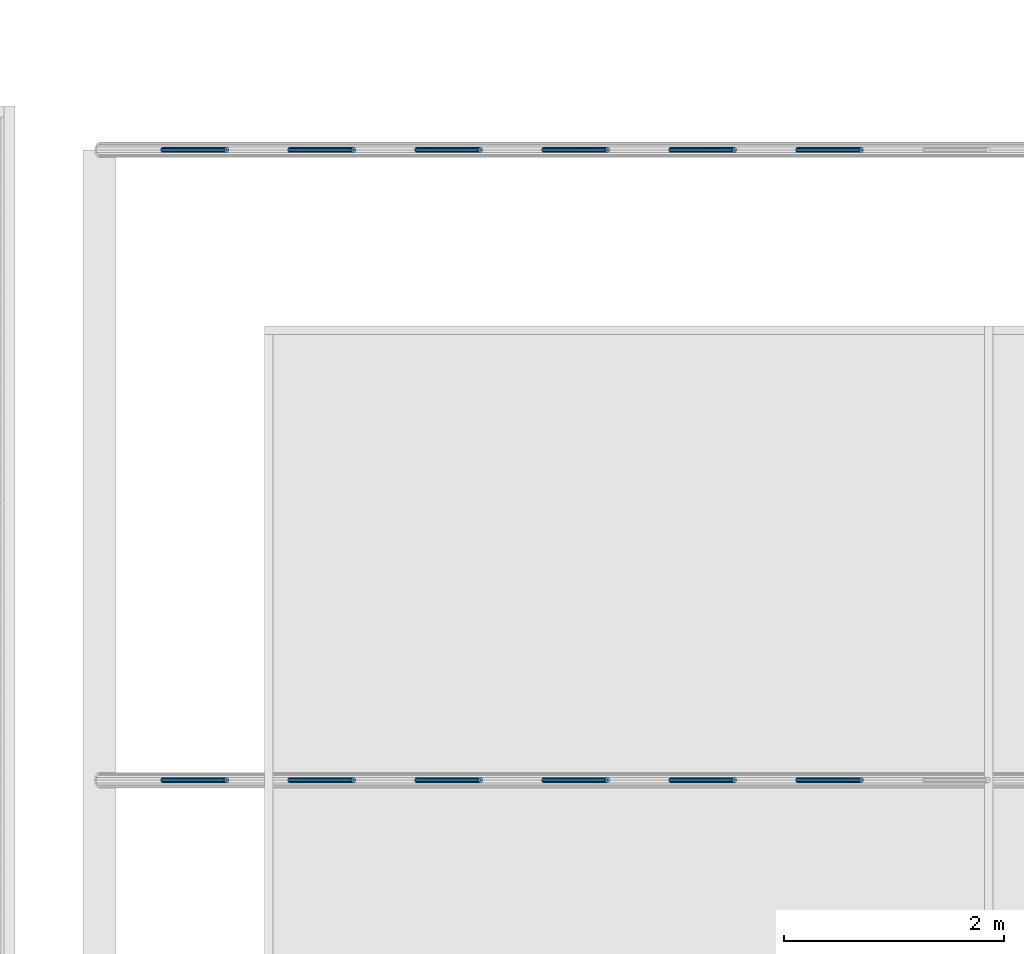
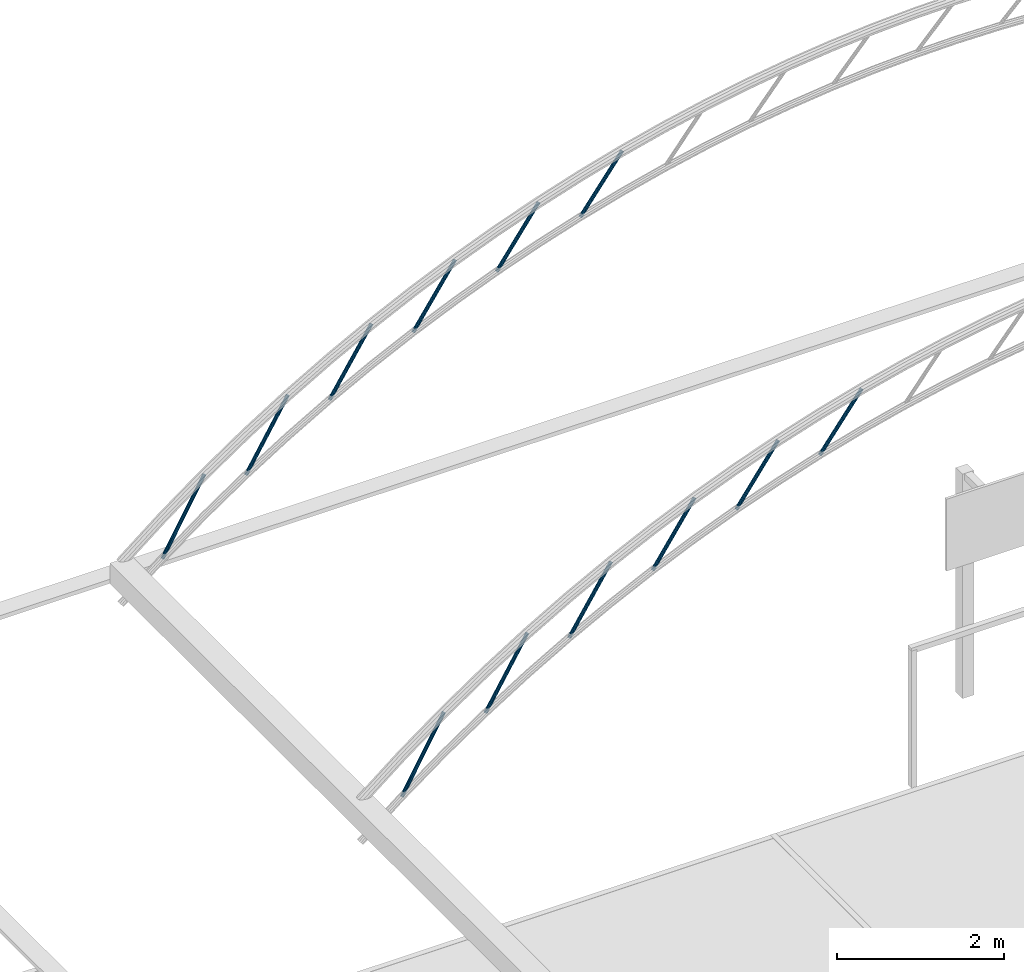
# One storey, part 15 of 90: 12 beams.
"""IFC2X3 building model written with IfcOpenShell, lengths in metres."""

from ifc_helpers import new_model, si_unit, origin, origin_with_axes, place, context, subcontext, project, spatial, faceted_brep, element, save


model = new_model("IFC2X3")

# Units and contexts
model_context = context("Model", 3, precision=1e-05, world=origin_with_axes())
body_context = subcontext(model_context, "Body", "Model", "MODEL_VIEW")
ifc_project = project(units=[si_unit("LENGTHUNIT", "METRE"), si_unit("AREAUNIT", "SQUARE_METRE"), si_unit("VOLUMEUNIT", "CUBIC_METRE"), si_unit("PLANEANGLEUNIT", "RADIAN")], contexts=[model_context])

# Site, building, storey
site_placement = place(None, origin_with_axes())
site = spatial("IfcSite", under=ifc_project, at=site_placement, Name="Predio Los Mangos - Morales, San Martín", CompositionType="ELEMENT")
building_placement = place(site_placement, origin())
building = spatial("IfcBuilding", under=site, at=building_placement, Name="Hogar de Refugio Temporal", CompositionType="ELEMENT")
storey_placement = place(building_placement, origin())
storey = spatial("IfcBuildingStorey", under=building, at=storey_placement, Name="NIVEL 1 (NPT +0.00)", CompositionType="ELEMENT", Elevation=0.0)

# Beams
beam_1_placement = place(storey_placement, origin())
element("IfcBeam", 1, at=beam_1_placement, inside=storey, Name="diag", ObjectType="Viga", context=body_context, shape_type="Brep", body=[
    faceted_brep([(4.0666, 121.2883, 5.8202), (4.6441, 121.2883, 6.8469), (4.655, 121.2917, 6.8408), (4.0775, 121.2917, 5.8141), (4.0586, 121.2792, 5.8247), (4.6361, 121.2792, 6.8514), (4.0557, 121.2667, 5.8263), (4.6332, 121.2667, 6.8531), (4.0586, 121.2542, 5.8247), (4.6361, 121.2542, 6.8514), (4.0666, 121.245, 5.8202), (4.6441, 121.245, 6.8469), (4.0775, 121.2417, 5.8141), (4.655, 121.2417, 6.8408), (4.0884, 121.245, 5.808), (4.6659, 121.245, 6.8347), (4.0964, 121.2542, 5.8035), (4.6739, 121.2542, 6.8302), (4.0993, 121.2667, 5.8018), (4.6768, 121.2667, 6.8286), (4.0964, 121.2792, 5.8035), (4.6739, 121.2792, 6.8302), (4.0884, 121.2883, 5.808), (4.6659, 121.2883, 6.8347), (4.0756, 121.2704, 5.8151), (4.0775, 121.271, 5.8141), (4.655, 121.271, 6.8408), (4.6531, 121.2704, 6.8419), (4.0743, 121.2688, 5.8159), (4.6518, 121.2688, 6.8426), (4.0738, 121.2667, 5.8162), (4.6513, 121.2667, 6.8429), (4.0743, 121.2645, 5.8159), (4.6518, 121.2645, 6.8426), (4.0756, 121.2629, 5.8151), (4.6531, 121.2629, 6.8419), (4.0775, 121.2624, 5.8141), (4.655, 121.2624, 6.8408), (4.0794, 121.2629, 5.813), (4.6569, 121.2629, 6.8398), (4.0807, 121.2645, 5.8123), (4.6582, 121.2645, 6.839), (4.0812, 121.2667, 5.812), (4.6587, 121.2667, 6.8387), (4.0807, 121.2688, 5.8123), (4.6582, 121.2688, 6.839), (4.0794, 121.2704, 5.813), (4.6569, 121.2704, 6.8398)], [[[0, 1, 2, 3]], [[4, 5, 1, 0]], [[6, 7, 5, 4]], [[8, 9, 7, 6]], [[10, 11, 9, 8]], [[12, 13, 11, 10]], [[14, 15, 13, 12]], [[16, 17, 15, 14]], [[18, 19, 17, 16]], [[20, 21, 19, 18]], [[22, 23, 21, 20]], [[3, 2, 23, 22]], [[24, 25, 26, 27]], [[28, 24, 27, 29]], [[30, 28, 29, 31]], [[32, 30, 31, 33]], [[34, 32, 33, 35]], [[36, 34, 35, 37]], [[38, 36, 37, 39]], [[40, 38, 39, 41]], [[42, 40, 41, 43]], [[44, 42, 43, 45]], [[46, 44, 45, 47]], [[25, 46, 47, 26]], [[16, 14, 38, 40]], [[0, 3, 25, 24]], [[9, 11, 35, 33]], [[19, 21, 45, 43]], [[12, 10, 34, 36]], [[22, 20, 44, 46]], [[5, 7, 31, 29]], [[15, 17, 41, 39]], [[2, 1, 27, 26]], [[8, 6, 30, 32]], [[18, 16, 40, 42]], [[11, 13, 37, 35]], [[21, 23, 47, 45]], [[4, 0, 24, 28]], [[14, 12, 36, 38]], [[3, 22, 46, 25]], [[7, 9, 33, 31]], [[17, 19, 43, 41]], [[23, 2, 26, 47]], [[10, 8, 32, 34]], [[20, 18, 42, 44]], [[1, 5, 29, 27]], [[13, 15, 39, 37]], [[6, 4, 28, 30]]]),
])
beam_2_placement = place(storey_placement, origin())
element("IfcBeam", 2, at=beam_2_placement, inside=storey, Name="diag", ObjectType="Viga", context=body_context, shape_type="Brep", body=[
    faceted_brep([(5.2218, 121.2883, 6.6398), (5.7993, 121.2883, 7.6007), (5.81, 121.2917, 7.5943), (5.2325, 121.2917, 6.6333), (5.2139, 121.2792, 6.6445), (5.7914, 121.2792, 7.6055), (5.2111, 121.2667, 6.6462), (5.7886, 121.2667, 7.6072), (5.2139, 121.2542, 6.6445), (5.7914, 121.2542, 7.6055), (5.2218, 121.245, 6.6398), (5.7993, 121.245, 7.6007), (5.2325, 121.2417, 6.6333), (5.81, 121.2417, 7.5943), (5.2432, 121.245, 6.6269), (5.8207, 121.245, 7.5879), (5.2511, 121.2542, 6.6222), (5.8286, 121.2542, 7.5832), (5.2539, 121.2667, 6.6205), (5.8314, 121.2667, 7.5814), (5.2511, 121.2792, 6.6222), (5.8286, 121.2792, 7.5832), (5.2432, 121.2883, 6.6269), (5.8207, 121.2883, 7.5879), (5.2307, 121.2704, 6.6345), (5.2325, 121.271, 6.6333), (5.81, 121.271, 7.5943), (5.8082, 121.2704, 7.5954), (5.2293, 121.2688, 6.6353), (5.8068, 121.2688, 7.5962), (5.2288, 121.2667, 6.6356), (5.8063, 121.2667, 7.5965), (5.2293, 121.2645, 6.6353), (5.8068, 121.2645, 7.5962), (5.2307, 121.2629, 6.6345), (5.8082, 121.2629, 7.5954), (5.2325, 121.2624, 6.6333), (5.81, 121.2624, 7.5943), (5.2343, 121.2629, 6.6322), (5.8118, 121.2629, 7.5932), (5.2357, 121.2645, 6.6314), (5.8132, 121.2645, 7.5924), (5.2362, 121.2667, 6.6311), (5.8137, 121.2667, 7.5921), (5.2357, 121.2688, 6.6314), (5.8132, 121.2688, 7.5924), (5.2343, 121.2704, 6.6322), (5.8118, 121.2704, 7.5932)], [[[0, 1, 2, 3]], [[4, 5, 1, 0]], [[6, 7, 5, 4]], [[8, 9, 7, 6]], [[10, 11, 9, 8]], [[12, 13, 11, 10]], [[14, 15, 13, 12]], [[16, 17, 15, 14]], [[18, 19, 17, 16]], [[20, 21, 19, 18]], [[22, 23, 21, 20]], [[3, 2, 23, 22]], [[24, 25, 26, 27]], [[28, 24, 27, 29]], [[30, 28, 29, 31]], [[32, 30, 31, 33]], [[34, 32, 33, 35]], [[36, 34, 35, 37]], [[38, 36, 37, 39]], [[40, 38, 39, 41]], [[42, 40, 41, 43]], [[44, 42, 43, 45]], [[46, 44, 45, 47]], [[25, 46, 47, 26]], [[16, 14, 38, 40]], [[0, 3, 25, 24]], [[9, 11, 35, 33]], [[19, 21, 45, 43]], [[12, 10, 34, 36]], [[22, 20, 44, 46]], [[5, 7, 31, 29]], [[15, 17, 41, 39]], [[2, 1, 27, 26]], [[8, 6, 30, 32]], [[18, 16, 40, 42]], [[11, 13, 37, 35]], [[21, 23, 47, 45]], [[4, 0, 24, 28]], [[14, 12, 36, 38]], [[3, 22, 46, 25]], [[7, 9, 33, 31]], [[17, 19, 43, 41]], [[23, 2, 26, 47]], [[10, 8, 32, 34]], [[20, 18, 42, 44]], [[1, 5, 29, 27]], [[13, 15, 39, 37]], [[6, 4, 28, 30]]]),
])
beam_3_placement = place(storey_placement, origin())
element("IfcBeam", 3, at=beam_3_placement, inside=storey, Name="diag", ObjectType="Viga", context=body_context, shape_type="Brep", body=[
    faceted_brep([(6.377, 121.2883, 7.3326), (6.9545, 121.2883, 8.2366), (6.965, 121.2917, 8.2298), (6.3875, 121.2917, 7.3259), (6.3693, 121.2792, 7.3375), (6.9468, 121.2792, 8.2415), (6.3664, 121.2667, 7.3393), (6.9439, 121.2667, 8.2433), (6.3693, 121.2542, 7.3375), (6.9468, 121.2542, 8.2415), (6.377, 121.245, 7.3326), (6.9545, 121.245, 8.2366), (6.3875, 121.2417, 7.3259), (6.965, 121.2417, 8.2298), (6.398, 121.245, 7.3191), (6.9755, 121.245, 8.2231), (6.4057, 121.2542, 7.3142), (6.9832, 121.2542, 8.2182), (6.4086, 121.2667, 7.3124), (6.9861, 121.2667, 8.2164), (6.4057, 121.2792, 7.3142), (6.9832, 121.2792, 8.2182), (6.398, 121.2883, 7.3191), (6.9755, 121.2883, 8.2231), (6.3857, 121.2704, 7.327), (6.3875, 121.271, 7.3259), (6.965, 121.271, 8.2298), (6.9632, 121.2704, 8.231), (6.3844, 121.2688, 7.3279), (6.9619, 121.2688, 8.2318), (6.3839, 121.2667, 7.3282), (6.9614, 121.2667, 8.2321), (6.3844, 121.2645, 7.3279), (6.9619, 121.2645, 8.2318), (6.3857, 121.2629, 7.327), (6.9632, 121.2629, 8.231), (6.3875, 121.2624, 7.3259), (6.965, 121.2624, 8.2298), (6.3893, 121.2629, 7.3247), (6.9668, 121.2629, 8.2287), (6.3906, 121.2645, 7.3239), (6.9681, 121.2645, 8.2278), (6.3911, 121.2667, 7.3235), (6.9686, 121.2667, 8.2275), (6.3906, 121.2688, 7.3239), (6.9681, 121.2688, 8.2278), (6.3893, 121.2704, 7.3247), (6.9668, 121.2704, 8.2287)], [[[0, 1, 2, 3]], [[4, 5, 1, 0]], [[6, 7, 5, 4]], [[8, 9, 7, 6]], [[10, 11, 9, 8]], [[12, 13, 11, 10]], [[14, 15, 13, 12]], [[16, 17, 15, 14]], [[18, 19, 17, 16]], [[20, 21, 19, 18]], [[22, 23, 21, 20]], [[3, 2, 23, 22]], [[24, 25, 26, 27]], [[28, 24, 27, 29]], [[30, 28, 29, 31]], [[32, 30, 31, 33]], [[34, 32, 33, 35]], [[36, 34, 35, 37]], [[38, 36, 37, 39]], [[40, 38, 39, 41]], [[42, 40, 41, 43]], [[44, 42, 43, 45]], [[46, 44, 45, 47]], [[25, 46, 47, 26]], [[16, 14, 38, 40]], [[0, 3, 25, 24]], [[9, 11, 35, 33]], [[19, 21, 45, 43]], [[12, 10, 34, 36]], [[22, 20, 44, 46]], [[5, 7, 31, 29]], [[15, 17, 41, 39]], [[2, 1, 27, 26]], [[8, 6, 30, 32]], [[18, 16, 40, 42]], [[11, 13, 37, 35]], [[21, 23, 47, 45]], [[4, 0, 24, 28]], [[14, 12, 36, 38]], [[3, 22, 46, 25]], [[7, 9, 33, 31]], [[17, 19, 43, 41]], [[23, 2, 26, 47]], [[10, 8, 32, 34]], [[20, 18, 42, 44]], [[1, 5, 29, 27]], [[13, 15, 39, 37]], [[6, 4, 28, 30]]]),
])
beam_4_placement = place(storey_placement, origin())
element("IfcBeam", 4, at=beam_4_placement, inside=storey, Name="diag", ObjectType="Viga", context=body_context, shape_type="Brep", body=[
    faceted_brep([(7.5321, 121.2883, 7.9148), (8.1096, 121.2883, 8.7679), (8.12, 121.2917, 8.7609), (7.5425, 121.2917, 7.9077), (7.5246, 121.2792, 7.9199), (8.1021, 121.2792, 8.7731), (7.5218, 121.2667, 7.9218), (8.0993, 121.2667, 8.7749), (7.5246, 121.2542, 7.9199), (8.1021, 121.2542, 8.7731), (7.5321, 121.245, 7.9148), (8.1096, 121.245, 8.7679), (7.5425, 121.2417, 7.9077), (8.12, 121.2417, 8.7609), (7.5529, 121.245, 7.9007), (8.1304, 121.245, 8.7539), (7.5604, 121.2542, 7.8956), (8.1379, 121.2542, 8.7488), (7.5632, 121.2667, 7.8937), (8.1407, 121.2667, 8.7469), (7.5604, 121.2792, 7.8956), (8.1379, 121.2792, 8.7488), (7.5529, 121.2883, 7.9007), (8.1304, 121.2883, 8.7539), (7.5407, 121.2704, 7.9089), (7.5425, 121.271, 7.9077), (8.12, 121.271, 8.7609), (8.1182, 121.2704, 8.7621), (7.5394, 121.2688, 7.9098), (8.1169, 121.2688, 8.763), (7.5389, 121.2667, 7.9102), (8.1164, 121.2667, 8.7633), (7.5394, 121.2645, 7.9098), (8.1169, 121.2645, 8.763), (7.5407, 121.2629, 7.9089), (8.1182, 121.2629, 8.7621), (7.5425, 121.2624, 7.9077), (8.12, 121.2624, 8.7609), (7.5443, 121.2629, 7.9065), (8.1218, 121.2629, 8.7597), (7.5456, 121.2645, 7.9057), (8.1231, 121.2645, 8.7588), (7.5461, 121.2667, 7.9053), (8.1236, 121.2667, 8.7585), (7.5456, 121.2688, 7.9057), (8.1231, 121.2688, 8.7588), (7.5443, 121.2704, 7.9065), (8.1218, 121.2704, 8.7597)], [[[0, 1, 2, 3]], [[4, 5, 1, 0]], [[6, 7, 5, 4]], [[8, 9, 7, 6]], [[10, 11, 9, 8]], [[12, 13, 11, 10]], [[14, 15, 13, 12]], [[16, 17, 15, 14]], [[18, 19, 17, 16]], [[20, 21, 19, 18]], [[22, 23, 21, 20]], [[3, 2, 23, 22]], [[24, 25, 26, 27]], [[28, 24, 27, 29]], [[30, 28, 29, 31]], [[32, 30, 31, 33]], [[34, 32, 33, 35]], [[36, 34, 35, 37]], [[38, 36, 37, 39]], [[40, 38, 39, 41]], [[42, 40, 41, 43]], [[44, 42, 43, 45]], [[46, 44, 45, 47]], [[25, 46, 47, 26]], [[16, 14, 38, 40]], [[0, 3, 25, 24]], [[9, 11, 35, 33]], [[19, 21, 45, 43]], [[12, 10, 34, 36]], [[22, 20, 44, 46]], [[5, 7, 31, 29]], [[15, 17, 41, 39]], [[2, 1, 27, 26]], [[8, 6, 30, 32]], [[18, 16, 40, 42]], [[11, 13, 37, 35]], [[21, 23, 47, 45]], [[4, 0, 24, 28]], [[14, 12, 36, 38]], [[3, 22, 46, 25]], [[7, 9, 33, 31]], [[17, 19, 43, 41]], [[23, 2, 26, 47]], [[10, 8, 32, 34]], [[20, 18, 42, 44]], [[1, 5, 29, 27]], [[13, 15, 39, 37]], [[6, 4, 28, 30]]]),
])
beam_5_placement = place(storey_placement, origin())
element("IfcBeam", 5, at=beam_5_placement, inside=storey, Name="diag", ObjectType="Viga", context=body_context, shape_type="Brep", body=[
    faceted_brep([(8.6873, 121.2883, 8.3978), (9.2648, 121.2883, 9.2047), (9.275, 121.2917, 9.1974), (8.6975, 121.2917, 8.3905), (8.6799, 121.2792, 8.4031), (9.2574, 121.2792, 9.21), (8.6772, 121.2667, 8.405), (9.2547, 121.2667, 9.2119), (8.6799, 121.2542, 8.4031), (9.2574, 121.2542, 9.21), (8.6873, 121.245, 8.3978), (9.2648, 121.245, 9.2047), (8.6975, 121.2417, 8.3905), (9.275, 121.2417, 9.1974), (8.7077, 121.245, 8.3832), (9.2852, 121.245, 9.1901), (8.7151, 121.2542, 8.3779), (9.2926, 121.2542, 9.1848), (8.7178, 121.2667, 8.3759), (9.2953, 121.2667, 9.1828), (8.7151, 121.2792, 8.3779), (9.2926, 121.2792, 9.1848), (8.7077, 121.2883, 8.3832), (9.2852, 121.2883, 9.1901), (8.6958, 121.2704, 8.3917), (8.6975, 121.271, 8.3905), (9.275, 121.271, 9.1974), (9.2733, 121.2704, 9.1986), (8.6945, 121.2688, 8.3927), (9.272, 121.2688, 9.1996), (8.694, 121.2667, 8.393), (9.2715, 121.2667, 9.1999), (8.6945, 121.2645, 8.3927), (9.272, 121.2645, 9.1996), (8.6958, 121.2629, 8.3917), (9.2733, 121.2629, 9.1986), (8.6975, 121.2624, 8.3905), (9.275, 121.2624, 9.1974), (8.6992, 121.2629, 8.3892), (9.2767, 121.2629, 9.1961), (8.7005, 121.2645, 8.3883), (9.278, 121.2645, 9.1952), (8.701, 121.2667, 8.388), (9.2785, 121.2667, 9.1949), (8.7005, 121.2688, 8.3883), (9.278, 121.2688, 9.1952), (8.6992, 121.2704, 8.3892), (9.2767, 121.2704, 9.1961)], [[[0, 1, 2, 3]], [[4, 5, 1, 0]], [[6, 7, 5, 4]], [[8, 9, 7, 6]], [[10, 11, 9, 8]], [[12, 13, 11, 10]], [[14, 15, 13, 12]], [[16, 17, 15, 14]], [[18, 19, 17, 16]], [[20, 21, 19, 18]], [[22, 23, 21, 20]], [[3, 2, 23, 22]], [[24, 25, 26, 27]], [[28, 24, 27, 29]], [[30, 28, 29, 31]], [[32, 30, 31, 33]], [[34, 32, 33, 35]], [[36, 34, 35, 37]], [[38, 36, 37, 39]], [[40, 38, 39, 41]], [[42, 40, 41, 43]], [[44, 42, 43, 45]], [[46, 44, 45, 47]], [[25, 46, 47, 26]], [[16, 14, 38, 40]], [[0, 3, 25, 24]], [[9, 11, 35, 33]], [[19, 21, 45, 43]], [[12, 10, 34, 36]], [[22, 20, 44, 46]], [[5, 7, 31, 29]], [[15, 17, 41, 39]], [[2, 1, 27, 26]], [[8, 6, 30, 32]], [[18, 16, 40, 42]], [[11, 13, 37, 35]], [[21, 23, 47, 45]], [[4, 0, 24, 28]], [[14, 12, 36, 38]], [[3, 22, 46, 25]], [[7, 9, 33, 31]], [[17, 19, 43, 41]], [[23, 2, 26, 47]], [[10, 8, 32, 34]], [[20, 18, 42, 44]], [[1, 5, 29, 27]], [[13, 15, 39, 37]], [[6, 4, 28, 30]]]),
])
beam_6_placement = place(storey_placement, origin())
element("IfcBeam", 6, at=beam_6_placement, inside=storey, Name="diag", ObjectType="Viga", context=body_context, shape_type="Brep", body=[
    faceted_brep([(9.8425, 121.2883, 8.79), (10.42, 121.2883, 9.5539), (10.43, 121.2917, 9.5463), (9.8525, 121.2917, 8.7824), (9.8352, 121.2792, 8.7955), (10.4127, 121.2792, 9.5594), (9.8326, 121.2667, 8.7975), (10.4101, 121.2667, 9.5614), (9.8352, 121.2542, 8.7955), (10.4127, 121.2542, 9.5594), (9.8425, 121.245, 8.79), (10.42, 121.245, 9.5539), (9.8525, 121.2417, 8.7824), (10.43, 121.2417, 9.5463), (9.8625, 121.245, 8.7749), (10.44, 121.245, 9.5388), (9.8698, 121.2542, 8.7694), (10.4473, 121.2542, 9.5333), (9.8724, 121.2667, 8.7674), (10.4499, 121.2667, 9.5313), (9.8698, 121.2792, 8.7694), (10.4473, 121.2792, 9.5333), (9.8625, 121.2883, 8.7749), (10.44, 121.2883, 9.5388), (9.8508, 121.2704, 8.7837), (9.8525, 121.271, 8.7824), (10.43, 121.271, 9.5463), (10.4283, 121.2704, 9.5476), (9.8495, 121.2688, 8.7847), (10.427, 121.2688, 9.5486), (9.8491, 121.2667, 8.785), (10.4266, 121.2667, 9.5489), (9.8495, 121.2645, 8.7847), (10.427, 121.2645, 9.5486), (9.8508, 121.2629, 8.7837), (10.4283, 121.2629, 9.5476), (9.8525, 121.2624, 8.7824), (10.43, 121.2624, 9.5463), (9.8542, 121.2629, 8.7812), (10.4317, 121.2629, 9.5451), (9.8555, 121.2645, 8.7802), (10.433, 121.2645, 9.5441), (9.8559, 121.2667, 8.7799), (10.4334, 121.2667, 9.5438), (9.8555, 121.2688, 8.7802), (10.433, 121.2688, 9.5441), (9.8542, 121.2704, 8.7812), (10.4317, 121.2704, 9.5451)], [[[0, 1, 2, 3]], [[4, 5, 1, 0]], [[6, 7, 5, 4]], [[8, 9, 7, 6]], [[10, 11, 9, 8]], [[12, 13, 11, 10]], [[14, 15, 13, 12]], [[16, 17, 15, 14]], [[18, 19, 17, 16]], [[20, 21, 19, 18]], [[22, 23, 21, 20]], [[3, 2, 23, 22]], [[24, 25, 26, 27]], [[28, 24, 27, 29]], [[30, 28, 29, 31]], [[32, 30, 31, 33]], [[34, 32, 33, 35]], [[36, 34, 35, 37]], [[38, 36, 37, 39]], [[40, 38, 39, 41]], [[42, 40, 41, 43]], [[44, 42, 43, 45]], [[46, 44, 45, 47]], [[25, 46, 47, 26]], [[23, 2, 26, 47]], [[10, 8, 32, 34]], [[20, 18, 42, 44]], [[1, 5, 29, 27]], [[13, 15, 39, 37]], [[6, 4, 28, 30]], [[16, 14, 38, 40]], [[0, 3, 25, 24]], [[9, 11, 35, 33]], [[19, 21, 45, 43]], [[12, 10, 34, 36]], [[22, 20, 44, 46]], [[5, 7, 31, 29]], [[15, 17, 41, 39]], [[2, 1, 27, 26]], [[8, 6, 30, 32]], [[18, 16, 40, 42]], [[11, 13, 37, 35]], [[21, 23, 47, 45]], [[4, 0, 24, 28]], [[14, 12, 36, 38]], [[3, 22, 46, 25]], [[7, 9, 33, 31]], [[17, 19, 43, 41]]]),
])
beam_7_placement = place(storey_placement, origin())
element("IfcBeam", 7, at=beam_7_placement, inside=storey, Name="diag", ObjectType="Viga", context=body_context, shape_type="Brep", body=[
    faceted_brep([(4.0666, 127.0217, 5.8202), (4.6441, 127.0217, 6.8469), (4.655, 127.025, 6.8408), (4.0775, 127.025, 5.8141), (4.0586, 127.0125, 5.8247), (4.6361, 127.0125, 6.8514), (4.0557, 127.0, 5.8263), (4.6332, 127.0, 6.8531), (4.0586, 126.9875, 5.8247), (4.6361, 126.9875, 6.8514), (4.0666, 126.9783, 5.8202), (4.6441, 126.9783, 6.8469), (4.0775, 126.975, 5.8141), (4.655, 126.975, 6.8408), (4.0884, 126.9783, 5.808), (4.6659, 126.9783, 6.8347), (4.0964, 126.9875, 5.8035), (4.6739, 126.9875, 6.8302), (4.0993, 127.0, 5.8018), (4.6768, 127.0, 6.8286), (4.0964, 127.0125, 5.8035), (4.6739, 127.0125, 6.8302), (4.0884, 127.0217, 5.808), (4.6659, 127.0217, 6.8347), (4.0756, 127.0037, 5.8151), (4.0775, 127.0043, 5.8141), (4.655, 127.0043, 6.8408), (4.6531, 127.0037, 6.8419), (4.0743, 127.0021, 5.8159), (4.6518, 127.0021, 6.8426), (4.0738, 127.0, 5.8162), (4.6513, 127.0, 6.8429), (4.0743, 126.9979, 5.8159), (4.6518, 126.9979, 6.8426), (4.0756, 126.9963, 5.8151), (4.6531, 126.9963, 6.8419), (4.0775, 126.9957, 5.8141), (4.655, 126.9957, 6.8408), (4.0794, 126.9963, 5.813), (4.6569, 126.9963, 6.8398), (4.0807, 126.9979, 5.8123), (4.6582, 126.9979, 6.839), (4.0812, 127.0, 5.812), (4.6587, 127.0, 6.8387), (4.0807, 127.0021, 5.8123), (4.6582, 127.0021, 6.839), (4.0794, 127.0037, 5.813), (4.6569, 127.0037, 6.8398)], [[[0, 1, 2, 3]], [[4, 5, 1, 0]], [[6, 7, 5, 4]], [[8, 9, 7, 6]], [[10, 11, 9, 8]], [[12, 13, 11, 10]], [[14, 15, 13, 12]], [[16, 17, 15, 14]], [[18, 19, 17, 16]], [[20, 21, 19, 18]], [[22, 23, 21, 20]], [[3, 2, 23, 22]], [[24, 25, 26, 27]], [[28, 24, 27, 29]], [[30, 28, 29, 31]], [[32, 30, 31, 33]], [[34, 32, 33, 35]], [[36, 34, 35, 37]], [[38, 36, 37, 39]], [[40, 38, 39, 41]], [[42, 40, 41, 43]], [[44, 42, 43, 45]], [[46, 44, 45, 47]], [[25, 46, 47, 26]], [[1, 5, 29, 27]], [[13, 15, 39, 37]], [[6, 4, 28, 30]], [[16, 14, 38, 40]], [[0, 3, 25, 24]], [[9, 11, 35, 33]], [[19, 21, 45, 43]], [[12, 10, 34, 36]], [[22, 20, 44, 46]], [[5, 7, 31, 29]], [[15, 17, 41, 39]], [[2, 1, 27, 26]], [[8, 6, 30, 32]], [[18, 16, 40, 42]], [[11, 13, 37, 35]], [[21, 23, 47, 45]], [[4, 0, 24, 28]], [[14, 12, 36, 38]], [[3, 22, 46, 25]], [[7, 9, 33, 31]], [[17, 19, 43, 41]], [[23, 2, 26, 47]], [[10, 8, 32, 34]], [[20, 18, 42, 44]]]),
])
beam_8_placement = place(storey_placement, origin())
element("IfcBeam", 8, at=beam_8_placement, inside=storey, Name="diag", ObjectType="Viga", context=body_context, shape_type="Brep", body=[
    faceted_brep([(5.2218, 127.0217, 6.6398), (5.7993, 127.0217, 7.6007), (5.81, 127.025, 7.5943), (5.2325, 127.025, 6.6333), (5.2139, 127.0125, 6.6445), (5.7914, 127.0125, 7.6055), (5.2111, 127.0, 6.6462), (5.7886, 127.0, 7.6072), (5.2139, 126.9875, 6.6445), (5.7914, 126.9875, 7.6055), (5.2218, 126.9783, 6.6398), (5.7993, 126.9783, 7.6007), (5.2325, 126.975, 6.6333), (5.81, 126.975, 7.5943), (5.2432, 126.9783, 6.6269), (5.8207, 126.9783, 7.5879), (5.2511, 126.9875, 6.6222), (5.8286, 126.9875, 7.5832), (5.2539, 127.0, 6.6205), (5.8314, 127.0, 7.5814), (5.2511, 127.0125, 6.6222), (5.8286, 127.0125, 7.5832), (5.2432, 127.0217, 6.6269), (5.8207, 127.0217, 7.5879), (5.2307, 127.0037, 6.6345), (5.2325, 127.0043, 6.6333), (5.81, 127.0043, 7.5943), (5.8082, 127.0037, 7.5954), (5.2293, 127.0021, 6.6353), (5.8068, 127.0021, 7.5962), (5.2288, 127.0, 6.6356), (5.8063, 127.0, 7.5965), (5.2293, 126.9979, 6.6353), (5.8068, 126.9979, 7.5962), (5.2307, 126.9963, 6.6345), (5.8082, 126.9963, 7.5954), (5.2325, 126.9957, 6.6333), (5.81, 126.9957, 7.5943), (5.2343, 126.9963, 6.6322), (5.8118, 126.9963, 7.5932), (5.2357, 126.9979, 6.6314), (5.8132, 126.9979, 7.5924), (5.2362, 127.0, 6.6311), (5.8137, 127.0, 7.5921), (5.2357, 127.0021, 6.6314), (5.8132, 127.0021, 7.5924), (5.2343, 127.0037, 6.6322), (5.8118, 127.0037, 7.5932)], [[[0, 1, 2, 3]], [[4, 5, 1, 0]], [[6, 7, 5, 4]], [[8, 9, 7, 6]], [[10, 11, 9, 8]], [[12, 13, 11, 10]], [[14, 15, 13, 12]], [[16, 17, 15, 14]], [[18, 19, 17, 16]], [[20, 21, 19, 18]], [[22, 23, 21, 20]], [[3, 2, 23, 22]], [[24, 25, 26, 27]], [[28, 24, 27, 29]], [[30, 28, 29, 31]], [[32, 30, 31, 33]], [[34, 32, 33, 35]], [[36, 34, 35, 37]], [[38, 36, 37, 39]], [[40, 38, 39, 41]], [[42, 40, 41, 43]], [[44, 42, 43, 45]], [[46, 44, 45, 47]], [[25, 46, 47, 26]], [[1, 5, 29, 27]], [[13, 15, 39, 37]], [[6, 4, 28, 30]], [[16, 14, 38, 40]], [[0, 3, 25, 24]], [[9, 11, 35, 33]], [[19, 21, 45, 43]], [[12, 10, 34, 36]], [[22, 20, 44, 46]], [[5, 7, 31, 29]], [[15, 17, 41, 39]], [[2, 1, 27, 26]], [[8, 6, 30, 32]], [[18, 16, 40, 42]], [[11, 13, 37, 35]], [[21, 23, 47, 45]], [[4, 0, 24, 28]], [[14, 12, 36, 38]], [[3, 22, 46, 25]], [[7, 9, 33, 31]], [[17, 19, 43, 41]], [[23, 2, 26, 47]], [[10, 8, 32, 34]], [[20, 18, 42, 44]]]),
])
beam_9_placement = place(storey_placement, origin())
element("IfcBeam", 9, at=beam_9_placement, inside=storey, Name="diag", ObjectType="Viga", context=body_context, shape_type="Brep", body=[
    faceted_brep([(6.377, 127.0217, 7.3326), (6.9545, 127.0217, 8.2366), (6.965, 127.025, 8.2298), (6.3875, 127.025, 7.3259), (6.3693, 127.0125, 7.3375), (6.9468, 127.0125, 8.2415), (6.3664, 127.0, 7.3393), (6.9439, 127.0, 8.2433), (6.3693, 126.9875, 7.3375), (6.9468, 126.9875, 8.2415), (6.377, 126.9783, 7.3326), (6.9545, 126.9783, 8.2366), (6.3875, 126.975, 7.3259), (6.965, 126.975, 8.2298), (6.398, 126.9783, 7.3191), (6.9755, 126.9783, 8.2231), (6.4057, 126.9875, 7.3142), (6.9832, 126.9875, 8.2182), (6.4086, 127.0, 7.3124), (6.9861, 127.0, 8.2164), (6.4057, 127.0125, 7.3142), (6.9832, 127.0125, 8.2182), (6.398, 127.0217, 7.3191), (6.9755, 127.0217, 8.2231), (6.3857, 127.0037, 7.327), (6.3875, 127.0043, 7.3259), (6.965, 127.0043, 8.2298), (6.9632, 127.0037, 8.231), (6.3844, 127.0021, 7.3279), (6.9619, 127.0021, 8.2318), (6.3839, 127.0, 7.3282), (6.9614, 127.0, 8.2321), (6.3844, 126.9979, 7.3279), (6.9619, 126.9979, 8.2318), (6.3857, 126.9963, 7.327), (6.9632, 126.9963, 8.231), (6.3875, 126.9957, 7.3259), (6.965, 126.9957, 8.2298), (6.3893, 126.9963, 7.3247), (6.9668, 126.9963, 8.2287), (6.3906, 126.9979, 7.3239), (6.9681, 126.9979, 8.2278), (6.3911, 127.0, 7.3235), (6.9686, 127.0, 8.2275), (6.3906, 127.0021, 7.3239), (6.9681, 127.0021, 8.2278), (6.3893, 127.0037, 7.3247), (6.9668, 127.0037, 8.2287)], [[[0, 1, 2, 3]], [[4, 5, 1, 0]], [[6, 7, 5, 4]], [[8, 9, 7, 6]], [[10, 11, 9, 8]], [[12, 13, 11, 10]], [[14, 15, 13, 12]], [[16, 17, 15, 14]], [[18, 19, 17, 16]], [[20, 21, 19, 18]], [[22, 23, 21, 20]], [[3, 2, 23, 22]], [[24, 25, 26, 27]], [[28, 24, 27, 29]], [[30, 28, 29, 31]], [[32, 30, 31, 33]], [[34, 32, 33, 35]], [[36, 34, 35, 37]], [[38, 36, 37, 39]], [[40, 38, 39, 41]], [[42, 40, 41, 43]], [[44, 42, 43, 45]], [[46, 44, 45, 47]], [[25, 46, 47, 26]], [[1, 5, 29, 27]], [[13, 15, 39, 37]], [[6, 4, 28, 30]], [[16, 14, 38, 40]], [[0, 3, 25, 24]], [[9, 11, 35, 33]], [[19, 21, 45, 43]], [[12, 10, 34, 36]], [[22, 20, 44, 46]], [[5, 7, 31, 29]], [[15, 17, 41, 39]], [[2, 1, 27, 26]], [[8, 6, 30, 32]], [[18, 16, 40, 42]], [[11, 13, 37, 35]], [[21, 23, 47, 45]], [[4, 0, 24, 28]], [[14, 12, 36, 38]], [[3, 22, 46, 25]], [[7, 9, 33, 31]], [[17, 19, 43, 41]], [[23, 2, 26, 47]], [[10, 8, 32, 34]], [[20, 18, 42, 44]]]),
])
beam_10_placement = place(storey_placement, origin())
element("IfcBeam", 10, at=beam_10_placement, inside=storey, Name="diag", ObjectType="Viga", context=body_context, shape_type="Brep", body=[
    faceted_brep([(7.5321, 127.0217, 7.9148), (8.1096, 127.0217, 8.7679), (8.12, 127.025, 8.7609), (7.5425, 127.025, 7.9077), (7.5246, 127.0125, 7.9199), (8.1021, 127.0125, 8.7731), (7.5218, 127.0, 7.9218), (8.0993, 127.0, 8.7749), (7.5246, 126.9875, 7.9199), (8.1021, 126.9875, 8.7731), (7.5321, 126.9783, 7.9148), (8.1096, 126.9783, 8.7679), (7.5425, 126.975, 7.9077), (8.12, 126.975, 8.7609), (7.5529, 126.9783, 7.9007), (8.1304, 126.9783, 8.7539), (7.5604, 126.9875, 7.8956), (8.1379, 126.9875, 8.7488), (7.5632, 127.0, 7.8937), (8.1407, 127.0, 8.7469), (7.5604, 127.0125, 7.8956), (8.1379, 127.0125, 8.7488), (7.5529, 127.0217, 7.9007), (8.1304, 127.0217, 8.7539), (7.5407, 127.0037, 7.9089), (7.5425, 127.0043, 7.9077), (8.12, 127.0043, 8.7609), (8.1182, 127.0037, 8.7621), (7.5394, 127.0021, 7.9098), (8.1169, 127.0021, 8.763), (7.5389, 127.0, 7.9102), (8.1164, 127.0, 8.7633), (7.5394, 126.9979, 7.9098), (8.1169, 126.9979, 8.763), (7.5407, 126.9963, 7.9089), (8.1182, 126.9963, 8.7621), (7.5425, 126.9957, 7.9077), (8.12, 126.9957, 8.7609), (7.5443, 126.9963, 7.9065), (8.1218, 126.9963, 8.7597), (7.5456, 126.9979, 7.9057), (8.1231, 126.9979, 8.7588), (7.5461, 127.0, 7.9053), (8.1236, 127.0, 8.7585), (7.5456, 127.0021, 7.9057), (8.1231, 127.0021, 8.7588), (7.5443, 127.0037, 7.9065), (8.1218, 127.0037, 8.7597)], [[[0, 1, 2, 3]], [[4, 5, 1, 0]], [[6, 7, 5, 4]], [[8, 9, 7, 6]], [[10, 11, 9, 8]], [[12, 13, 11, 10]], [[14, 15, 13, 12]], [[16, 17, 15, 14]], [[18, 19, 17, 16]], [[20, 21, 19, 18]], [[22, 23, 21, 20]], [[3, 2, 23, 22]], [[24, 25, 26, 27]], [[28, 24, 27, 29]], [[30, 28, 29, 31]], [[32, 30, 31, 33]], [[34, 32, 33, 35]], [[36, 34, 35, 37]], [[38, 36, 37, 39]], [[40, 38, 39, 41]], [[42, 40, 41, 43]], [[44, 42, 43, 45]], [[46, 44, 45, 47]], [[25, 46, 47, 26]], [[1, 5, 29, 27]], [[13, 15, 39, 37]], [[6, 4, 28, 30]], [[16, 14, 38, 40]], [[0, 3, 25, 24]], [[9, 11, 35, 33]], [[19, 21, 45, 43]], [[12, 10, 34, 36]], [[22, 20, 44, 46]], [[5, 7, 31, 29]], [[15, 17, 41, 39]], [[2, 1, 27, 26]], [[8, 6, 30, 32]], [[18, 16, 40, 42]], [[11, 13, 37, 35]], [[21, 23, 47, 45]], [[4, 0, 24, 28]], [[14, 12, 36, 38]], [[3, 22, 46, 25]], [[7, 9, 33, 31]], [[17, 19, 43, 41]], [[23, 2, 26, 47]], [[10, 8, 32, 34]], [[20, 18, 42, 44]]]),
])
beam_11_placement = place(storey_placement, origin())
element("IfcBeam", 11, at=beam_11_placement, inside=storey, Name="diag", ObjectType="Viga", context=body_context, shape_type="Brep", body=[
    faceted_brep([(8.6873, 127.0217, 8.3978), (9.2648, 127.0217, 9.2047), (9.275, 127.025, 9.1974), (8.6975, 127.025, 8.3905), (8.6799, 127.0125, 8.4031), (9.2574, 127.0125, 9.21), (8.6772, 127.0, 8.405), (9.2547, 127.0, 9.2119), (8.6799, 126.9875, 8.4031), (9.2574, 126.9875, 9.21), (8.6873, 126.9783, 8.3978), (9.2648, 126.9783, 9.2047), (8.6975, 126.975, 8.3905), (9.275, 126.975, 9.1974), (8.7077, 126.9783, 8.3832), (9.2852, 126.9783, 9.1901), (8.7151, 126.9875, 8.3779), (9.2926, 126.9875, 9.1848), (8.7178, 127.0, 8.3759), (9.2953, 127.0, 9.1828), (8.7151, 127.0125, 8.3779), (9.2926, 127.0125, 9.1848), (8.7077, 127.0217, 8.3832), (9.2852, 127.0217, 9.1901), (8.6958, 127.0037, 8.3917), (8.6975, 127.0043, 8.3905), (9.275, 127.0043, 9.1974), (9.2733, 127.0037, 9.1986), (8.6945, 127.0021, 8.3927), (9.272, 127.0021, 9.1996), (8.694, 127.0, 8.393), (9.2715, 127.0, 9.1999), (8.6945, 126.9979, 8.3927), (9.272, 126.9979, 9.1996), (8.6958, 126.9963, 8.3917), (9.2733, 126.9963, 9.1986), (8.6975, 126.9957, 8.3905), (9.275, 126.9957, 9.1974), (8.6992, 126.9963, 8.3892), (9.2767, 126.9963, 9.1961), (8.7005, 126.9979, 8.3883), (9.278, 126.9979, 9.1952), (8.701, 127.0, 8.388), (9.2785, 127.0, 9.1949), (8.7005, 127.0021, 8.3883), (9.278, 127.0021, 9.1952), (8.6992, 127.0037, 8.3892), (9.2767, 127.0037, 9.1961)], [[[0, 1, 2, 3]], [[4, 5, 1, 0]], [[6, 7, 5, 4]], [[8, 9, 7, 6]], [[10, 11, 9, 8]], [[12, 13, 11, 10]], [[14, 15, 13, 12]], [[16, 17, 15, 14]], [[18, 19, 17, 16]], [[20, 21, 19, 18]], [[22, 23, 21, 20]], [[3, 2, 23, 22]], [[24, 25, 26, 27]], [[28, 24, 27, 29]], [[30, 28, 29, 31]], [[32, 30, 31, 33]], [[34, 32, 33, 35]], [[36, 34, 35, 37]], [[38, 36, 37, 39]], [[40, 38, 39, 41]], [[42, 40, 41, 43]], [[44, 42, 43, 45]], [[46, 44, 45, 47]], [[25, 46, 47, 26]], [[4, 0, 24, 28]], [[14, 12, 36, 38]], [[3, 22, 46, 25]], [[7, 9, 33, 31]], [[17, 19, 43, 41]], [[23, 2, 26, 47]], [[10, 8, 32, 34]], [[20, 18, 42, 44]], [[1, 5, 29, 27]], [[13, 15, 39, 37]], [[6, 4, 28, 30]], [[16, 14, 38, 40]], [[0, 3, 25, 24]], [[9, 11, 35, 33]], [[19, 21, 45, 43]], [[12, 10, 34, 36]], [[22, 20, 44, 46]], [[5, 7, 31, 29]], [[15, 17, 41, 39]], [[2, 1, 27, 26]], [[8, 6, 30, 32]], [[18, 16, 40, 42]], [[11, 13, 37, 35]], [[21, 23, 47, 45]]]),
])
beam_12_placement = place(storey_placement, origin())
element("IfcBeam", 12, at=beam_12_placement, inside=storey, Name="diag", ObjectType="Viga", context=body_context, shape_type="Brep", body=[
    faceted_brep([(9.8425, 127.0217, 8.79), (10.42, 127.0217, 9.5539), (10.43, 127.025, 9.5463), (9.8525, 127.025, 8.7824), (9.8352, 127.0125, 8.7955), (10.4127, 127.0125, 9.5594), (9.8326, 127.0, 8.7975), (10.4101, 127.0, 9.5614), (9.8352, 126.9875, 8.7955), (10.4127, 126.9875, 9.5594), (9.8425, 126.9783, 8.79), (10.42, 126.9783, 9.5539), (9.8525, 126.975, 8.7824), (10.43, 126.975, 9.5463), (9.8625, 126.9783, 8.7749), (10.44, 126.9783, 9.5388), (9.8698, 126.9875, 8.7694), (10.4473, 126.9875, 9.5333), (9.8724, 127.0, 8.7674), (10.4499, 127.0, 9.5313), (9.8698, 127.0125, 8.7694), (10.4473, 127.0125, 9.5333), (9.8625, 127.0217, 8.7749), (10.44, 127.0217, 9.5388), (9.8508, 127.0037, 8.7837), (9.8525, 127.0043, 8.7824), (10.43, 127.0043, 9.5463), (10.4283, 127.0037, 9.5476), (9.8495, 127.0021, 8.7847), (10.427, 127.0021, 9.5486), (9.8491, 127.0, 8.785), (10.4266, 127.0, 9.5489), (9.8495, 126.9979, 8.7847), (10.427, 126.9979, 9.5486), (9.8508, 126.9963, 8.7837), (10.4283, 126.9963, 9.5476), (9.8525, 126.9957, 8.7824), (10.43, 126.9957, 9.5463), (9.8542, 126.9963, 8.7812), (10.4317, 126.9963, 9.5451), (9.8555, 126.9979, 8.7802), (10.433, 126.9979, 9.5441), (9.8559, 127.0, 8.7799), (10.4334, 127.0, 9.5438), (9.8555, 127.0021, 8.7802), (10.433, 127.0021, 9.5441), (9.8542, 127.0037, 8.7812), (10.4317, 127.0037, 9.5451)], [[[0, 1, 2, 3]], [[4, 5, 1, 0]], [[6, 7, 5, 4]], [[8, 9, 7, 6]], [[10, 11, 9, 8]], [[12, 13, 11, 10]], [[14, 15, 13, 12]], [[16, 17, 15, 14]], [[18, 19, 17, 16]], [[20, 21, 19, 18]], [[22, 23, 21, 20]], [[3, 2, 23, 22]], [[24, 25, 26, 27]], [[28, 24, 27, 29]], [[30, 28, 29, 31]], [[32, 30, 31, 33]], [[34, 32, 33, 35]], [[36, 34, 35, 37]], [[38, 36, 37, 39]], [[40, 38, 39, 41]], [[42, 40, 41, 43]], [[44, 42, 43, 45]], [[46, 44, 45, 47]], [[25, 46, 47, 26]], [[11, 13, 37, 35]], [[21, 23, 47, 45]], [[4, 0, 24, 28]], [[14, 12, 36, 38]], [[3, 22, 46, 25]], [[7, 9, 33, 31]], [[17, 19, 43, 41]], [[23, 2, 26, 47]], [[10, 8, 32, 34]], [[20, 18, 42, 44]], [[1, 5, 29, 27]], [[13, 15, 39, 37]], [[6, 4, 28, 30]], [[16, 14, 38, 40]], [[0, 3, 25, 24]], [[9, 11, 35, 33]], [[19, 21, 45, 43]], [[12, 10, 34, 36]], [[22, 20, 44, 46]], [[5, 7, 31, 29]], [[15, 17, 41, 39]], [[2, 1, 27, 26]], [[8, 6, 30, 32]], [[18, 16, 40, 42]]]),
])

save(model, "model.ifc")
